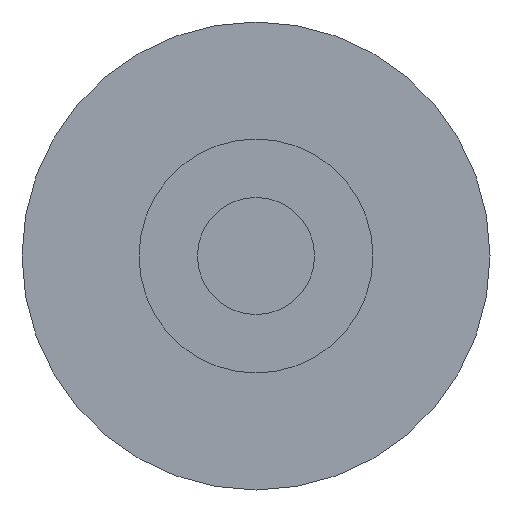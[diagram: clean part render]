
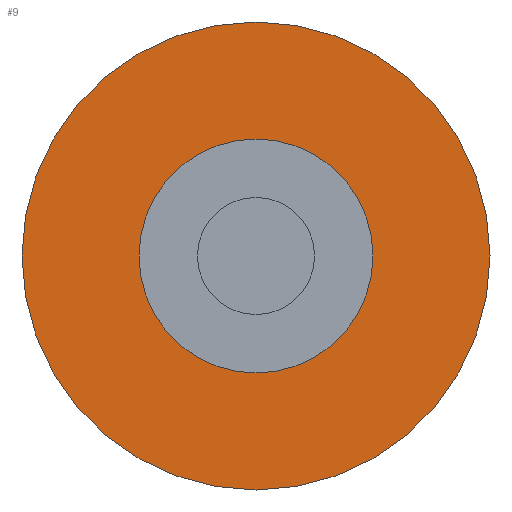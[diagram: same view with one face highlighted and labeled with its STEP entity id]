
A CAD part, front view. The second image highlights one B-rep face of the part: STEP entity #9.
In plain terms, the highlighted planar face has unit normal (0, -1, 0).
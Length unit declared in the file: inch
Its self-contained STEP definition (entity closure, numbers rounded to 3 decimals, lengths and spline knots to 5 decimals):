
#9 = ADVANCED_FACE ( 'NONE', ( #142, #143 ), #238, .F. ) ;
#35 = EDGE_CURVE ( 'NONE', #203, #190, #393, .T. ) ;
#37 = EDGE_CURVE ( 'NONE', #187, #225, #396, .T. ) ;
#39 = EDGE_CURVE ( 'NONE', #225, #187, #407, .T. ) ;
#53 = AXIS2_PLACEMENT_3D ( 'NONE', #239, #263, #269 ) ;
#57 = EDGE_CURVE ( 'NONE', #190, #203, #417, .T. ) ;
#68 = AXIS2_PLACEMENT_3D ( 'NONE', #283, #282, #324 ) ;
#95 = ORIENTED_EDGE ( 'NONE', *, *, #35, .F. ) ;
#98 = ORIENTED_EDGE ( 'NONE', *, *, #39, .F. ) ;
#113 = EDGE_LOOP ( 'NONE', ( #95, #131 ) ) ;
#123 = EDGE_LOOP ( 'NONE', ( #98, #129 ) ) ;
#129 = ORIENTED_EDGE ( 'NONE', *, *, #37, .F. ) ;
#131 = ORIENTED_EDGE ( 'NONE', *, *, #57, .F. ) ;
#142 = FACE_OUTER_BOUND ( 'NONE', #123, .T. ) ;
#143 = FACE_BOUND ( 'NONE', #113, .T. ) ;
#187 = VERTEX_POINT ( 'NONE', #344 ) ;
#190 = VERTEX_POINT ( 'NONE', #360 ) ;
#203 = VERTEX_POINT ( 'NONE', #330 ) ;
#225 = VERTEX_POINT ( 'NONE', #354 ) ;
#238 = PLANE ( 'NONE',  #53 ) ;
#239 = CARTESIAN_POINT ( 'NONE',  ( -1.10557, -0.94, 0. ) ) ;
#263 = DIRECTION ( 'NONE',  ( 0., 1., 0. ) ) ;
#269 = DIRECTION ( 'NONE',  ( 0., 0., 1. ) ) ;
#280 = CARTESIAN_POINT ( 'NONE',  ( 0., -0.94, 0. ) ) ;
#282 = DIRECTION ( 'NONE',  ( 0., -1., 0. ) ) ;
#283 = CARTESIAN_POINT ( 'NONE',  ( 0., -0.94, 0. ) ) ;
#289 = DIRECTION ( 'NONE',  ( 0., 0., 1. ) ) ;
#295 = CARTESIAN_POINT ( 'NONE',  ( 0., -0.94, 0. ) ) ;
#296 = DIRECTION ( 'NONE',  ( 0., -1., 0. ) ) ;
#298 = DIRECTION ( 'NONE',  ( 0., 1., 0. ) ) ;
#308 = DIRECTION ( 'NONE',  ( 0., 1., 0. ) ) ;
#312 = CARTESIAN_POINT ( 'NONE',  ( 0., -0.94, 0. ) ) ;
#313 = DIRECTION ( 'NONE',  ( 0., 0., 1. ) ) ;
#324 = DIRECTION ( 'NONE',  ( 0., 0., 1. ) ) ;
#327 = DIRECTION ( 'NONE',  ( 0., 0., 1. ) ) ;
#330 = CARTESIAN_POINT ( 'NONE',  ( 0., -0.94, -0.25 ) ) ;
#344 = CARTESIAN_POINT ( 'NONE',  ( 0., -0.94, 0.5 ) ) ;
#354 = CARTESIAN_POINT ( 'NONE',  ( 0., -0.94, -0.5 ) ) ;
#360 = CARTESIAN_POINT ( 'NONE',  ( 0., -0.94, 0.25 ) ) ;
#393 = CIRCLE ( 'NONE', #68, 0.25 ) ;
#396 = CIRCLE ( 'NONE', #439, 0.5 ) ;
#407 = CIRCLE ( 'NONE', #448, 0.5 ) ;
#417 = CIRCLE ( 'NONE', #441, 0.25 ) ;
#439 = AXIS2_PLACEMENT_3D ( 'NONE', #280, #298, #289 ) ;
#441 = AXIS2_PLACEMENT_3D ( 'NONE', #295, #296, #327 ) ;
#448 = AXIS2_PLACEMENT_3D ( 'NONE', #312, #308, #313 ) ;
